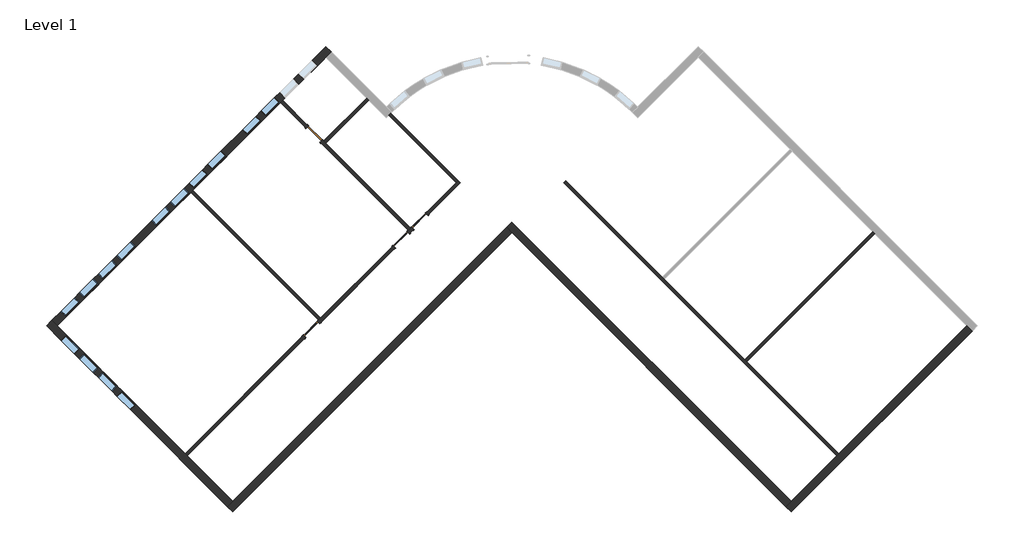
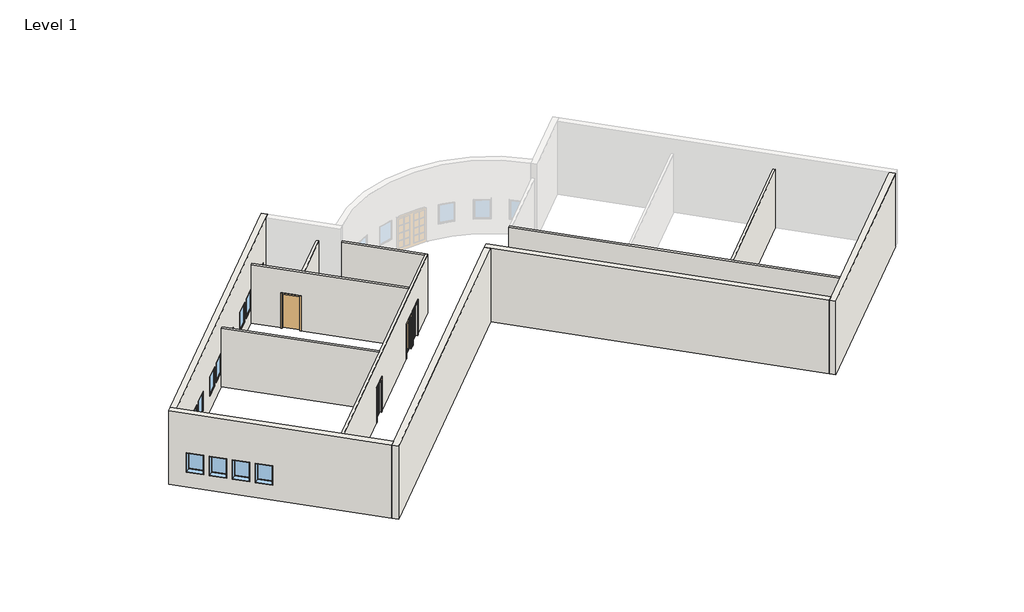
# One storey, part 1 of 2: 14 windows, 12 walls, 4 doors.
"""IFC4 building model written with IfcOpenShell, lengths in millimetres."""

from ifc_helpers import new_model, si_unit, point, frame_2d, origin, origin_with_axes, place, context, project, spatial, polyline, circle_curve, trimmed, segment, composite_curve, outline, extrude, faceted_brep, transform, mapped, element, save
from components import m_single_flush_0915_x_2134mm_83e8e835, m_single_glass_1_0915_x_2134mm_fb3287b7, m_single_glass_1_0915_x_2134mm_4e5e1233, m_fixed_0915_x_1220mm_bde29121, m_fixed_0915_x_1220mm_2a2509e7

model = new_model("IFC4")

# Units and contexts
model_context = context("Model", 3, world=origin())
ifc_project = project(units=[si_unit("LENGTHUNIT", "METRE", prefix="MILLI")], contexts=[model_context])

# Site, building, storey
site = spatial("IfcSite", under=ifc_project)
building = spatial("IfcBuilding", under=site)
storey = spatial("IfcBuildingStorey", under=building, Name="Level 1", Elevation=0.0)

# Doors
placement = place(None, origin())
m_single_flush_0915_x_2134mm_shape = m_single_flush_0915_x_2134mm_83e8e835(model_context)
element("IfcDoor", 1, ObjectType="M_Single-Flush : 0915 x 2134mm", at=placement, inside=storey, context=model_context, shape_type="MappedRepresentation", body=[
    mapped(m_single_flush_0915_x_2134mm_shape, transform((-10762.6979297, 6563.7995594, 0.0), x_axis=(0.7071067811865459, -0.7071067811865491, 0.0), y_axis=(0.7071067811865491, 0.7071067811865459, 0.0), z_axis=(0.0, 0.0, 1.0))),
])
m_single_glass_1_0915_x_2134mm_shape = m_single_glass_1_0915_x_2134mm_fb3287b7(model_context)
element("IfcDoor", 2, ObjectType="M_Single-Glass 1 : 0915 x 2134mm", at=placement, inside=storey, context=model_context, shape_type="MappedRepresentation", body=[
    mapped(m_single_glass_1_0915_x_2134mm_shape, transform((-10885.2041795, -2483.8084826, 0.0), x_axis=(0.7071067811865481, 0.7071067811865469, 0.0), y_axis=(-0.7071067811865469, 0.7071067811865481, 0.0), z_axis=(0.0, 0.0, 1.0))),
])
element("IfcDoor", 3, ObjectType="M_Single-Glass 1 : 0915 x 2134mm", at=placement, inside=storey, context=model_context, shape_type="MappedRepresentation", body=[
    mapped(m_single_glass_1_0915_x_2134mm_shape, transform((-6731.4821701, 1669.9135268, 0.0), x_axis=(0.7071067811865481, 0.7071067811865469, 0.0), y_axis=(-0.7071067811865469, 0.7071067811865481, 0.0), z_axis=(0.0, 0.0, 1.0))),
])
m_single_glass_1_0915_x_2134mm_2_shape = m_single_glass_1_0915_x_2134mm_4e5e1233(model_context)
element("IfcDoor", 4, ObjectType="M_Single-Glass 1 : 0915 x 2134mm", at=placement, inside=storey, context=model_context, shape_type="MappedRepresentation", body=[
    mapped(m_single_glass_1_0915_x_2134mm_2_shape, transform((-5868.8118971, 2532.5837999, 0.0), x_axis=(-0.7071067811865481, -0.7071067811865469, 0.0), y_axis=(0.7071067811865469, -0.7071067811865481, 0.0), z_axis=(0.0, 0.0, 1.0))),
])

# Walls
element("IfcWall", 5, ObjectType="Exterior - Brick on Mtl. Stud", at=placement, inside=storey, context=model_context, shape_type="Brep", body=[
    faceted_brep([(19456.3942478, -2315.870622, 0.0), (13534.5517321, -8237.7131378, 0.0), (13436.6174429, -8335.647427, 0.0), (11330.3231184, -10441.9417514, 0.0), (11082.835745, -10689.4291248, 0.0), (11082.835745, -10689.4291248, 4572.0), (11330.3231184, -10441.9417514, 4572.0), (19456.3942478, -2315.870622, 4572.0), (19703.8816212, -2563.3579955, 0.0), (19703.8816212, -2563.3579955, 4572.0), (11330.3231184, -10936.9164983, 4572.0), (11330.3231184, -10936.9164983, 0.0)], [[[0, 1, 2, 3, 4, 5, 6, 7]], [[8, 9, 10, 11]], [[4, 3, 2, 1, 0, 8, 11]], [[7, 6, 5, 10, 9]], [[0, 7, 9, 8]], [[5, 4, 11, 10]]]),
])
element("IfcWall", 6, ObjectType="Exterior - Brick on Mtl. Stud", at=placement, inside=storey, context=model_context, shape_type="Brep", body=[
    faceted_brep([(11330.3231184, -10441.9417514, 0.0), (-1601.2456959, 2489.6270629, 0.0), (-1601.2456959, 2489.6270629, 4572.0), (11330.3231184, -10441.9417514, 4572.0), (11082.835745, -10689.4291248, 0.0), (11082.835745, -10689.4291248, 4572.0), (-1601.2456959, 1994.6523161, 4572.0), (-1848.7330693, 2242.1396895, 4572.0), (-1848.7330693, 2242.1396895, 0.0), (-1601.2456959, 1994.6523161, 0.0)], [[[0, 1, 2, 3]], [[4, 5, 6, 7, 8, 9]], [[1, 0, 4, 9, 8]], [[3, 2, 7, 6, 5]], [[0, 3, 5, 4]], [[2, 1, 8, 7]]]),
])
element("IfcWall", 7, ObjectType="Exterior - Brick on Mtl. Stud", at=placement, inside=storey, context=model_context, shape_type="Brep", body=[
    faceted_brep([(-1848.7330693, 2242.1396895, 0.0), (-14532.8145102, -10441.9417514, 0.0), (-14780.3018837, -10689.4291248, 0.0), (-14780.3018837, -10689.4291248, 4572.0), (-14532.8145102, -10441.9417514, 4572.0), (-1848.7330693, 2242.1396895, 4572.0), (-1601.2456959, 1994.6523161, 0.0), (-1601.2456959, 1994.6523161, 4572.0), (-14532.8145102, -10936.9164983, 4572.0), (-14532.8145102, -10936.9164983, 0.0)], [[[0, 1, 2, 3, 4, 5]], [[6, 7, 8, 9]], [[2, 1, 0, 6, 9]], [[5, 4, 3, 8, 7]], [[0, 5, 7, 6]], [[3, 2, 9, 8]]]),
])
element("IfcWall", 8, ObjectType="Exterior - Brick on Mtl. Stud", at=placement, inside=storey, context=model_context, shape_type="Brep", body=[
    faceted_brep([(-14532.8145102, -10441.9417514, 0.0), (-16639.1088347, -8335.647427, 0.0), (-16737.0431239, -8237.7131378, 0.0), (-22658.8856396, -2315.870622, 0.0), (-22906.3730131, -2068.3832486, 0.0), (-22906.3730131, -2068.3832486, 4572.0), (-22658.8856396, -2315.870622, 4572.0), (-14532.8145102, -10441.9417514, 4572.0), (-19009.1539886, -5965.6022731, 915.0), (-19009.1539886, -5965.6022731, 2135.0), (-19656.1566933, -5318.5995683, 2135.0), (-19656.1566933, -5318.5995683, 915.0), (-19871.8242616, -5102.9320001, 915.0), (-19871.8242616, -5102.9320001, 2135.0), (-20518.8269664, -4455.9292953, 2135.0), (-20518.8269664, -4455.9292953, 915.0), (-20734.4945346, -4240.261727, 915.0), (-20734.4945346, -4240.261727, 2135.0), (-21381.4972394, -3593.2590223, 2135.0), (-21381.4972394, -3593.2590223, 915.0), (-21597.1648077, -3377.591454, 915.0), (-21597.1648077, -3377.591454, 2135.0), (-22244.1675125, -2730.5887492, 2135.0), (-22244.1675125, -2730.5887492, 915.0), (-14780.3018837, -10689.4291248, 0.0), (-14780.3018837, -10689.4291248, 4572.0), (-23153.8603865, -2315.870622, 4572.0), (-23153.8603865, -2315.870622, 0.0), (-19256.641362, -6213.0896465, 915.0), (-19903.6440668, -5566.0869418, 915.0), (-19903.6440668, -5566.0869418, 2135.0), (-19256.641362, -6213.0896465, 2135.0), (-20119.311635, -5350.4193735, 915.0), (-20766.3143398, -4703.4166687, 915.0), (-20766.3143398, -4703.4166687, 2135.0), (-20119.311635, -5350.4193735, 2135.0), (-20981.9819081, -4487.7491005, 915.0), (-21628.9846128, -3840.7463957, 915.0), (-21628.9846128, -3840.7463957, 2135.0), (-20981.9819081, -4487.7491005, 2135.0), (-21844.6521811, -3625.0788274, 915.0), (-22491.6548859, -2978.0761226, 915.0), (-22491.6548859, -2978.0761226, 2135.0), (-21844.6521811, -3625.0788274, 2135.0)], [[[0, 1, 2, 3, 4, 5, 6, 7], [8, 9, 10, 11], [12, 13, 14, 15], [16, 17, 18, 19], [20, 21, 22, 23]], [[24, 25, 26, 27], [28, 29, 30, 31], [32, 33, 34, 35], [36, 37, 38, 39], [40, 41, 42, 43]], [[4, 3, 2, 1, 0, 24, 27]], [[7, 6, 5, 26, 25]], [[0, 7, 25, 24]], [[5, 4, 27, 26]], [[9, 8, 28, 31]], [[10, 9, 31, 30]], [[11, 10, 30, 29]], [[8, 11, 29, 28]], [[13, 12, 32, 35]], [[14, 13, 35, 34]], [[15, 14, 34, 33]], [[12, 15, 33, 32]], [[17, 16, 36, 39]], [[18, 17, 39, 38]], [[19, 18, 38, 37]], [[16, 19, 37, 36]], [[21, 20, 40, 43]], [[22, 21, 43, 42]], [[23, 22, 42, 41]], [[20, 23, 41, 40]]]),
])
element("IfcWall", 9, ObjectType="Exterior - Brick on Mtl. Stud", at=placement, inside=storey, context=model_context, shape_type="Brep", body=[
    faceted_brep([(-22658.8856396, -2315.870622, 0.0), (-16473.6458479, 3869.3691697, 0.0), (-16375.7115587, 3967.3034589, 0.0), (-12319.9238385, 8023.0911791, 0.0), (-12221.9895493, 8121.0254683, 0.0), (-10222.2915721, 10120.7234455, 0.0), (-9974.8041987, 10368.2108189, 0.0), (-9974.8041987, 10368.2108189, 4572.0), (-10222.2915721, 10120.7234455, 4572.0), (-22658.8856396, -2315.870622, 4572.0), (-21597.1648077, -1254.1497901, 915.0), (-22244.1675125, -1901.1524949, 915.0), (-22244.1675125, -1901.1524949, 2135.0), (-21597.1648077, -1254.1497901, 2135.0), (-20734.4945346, -391.479517, 915.0), (-21381.4972394, -1038.4822218, 915.0), (-21381.4972394, -1038.4822218, 2135.0), (-20734.4945346, -391.479517, 2135.0), (-19009.1539886, 1333.8610291, 915.0), (-19656.1566933, 686.8583243, 915.0), (-19656.1566933, 686.8583243, 2135.0), (-19009.1539886, 1333.8610291, 2135.0), (-19871.8242616, 471.190756, 915.0), (-20518.8269664, -175.8119488, 915.0), (-20518.8269664, -175.8119488, 2135.0), (-19871.8242616, 471.190756, 2135.0), (-13840.2034181, 6502.8115995, 915.0), (-13840.2034181, 6502.8115995, 2135.0), (-13193.2007133, 7149.8143043, 2135.0), (-13193.2007133, 7149.8143043, 915.0), (-12977.533145, 7365.4818726, 915.0), (-12977.533145, 7365.4818726, 2135.0), (-12330.5304402, 8012.4845774, 2135.0), (-12330.5304402, 8012.4845774, 915.0), (-12114.862872, 8228.1521456, 915.0), (-12114.862872, 8228.1521456, 2135.0), (-11467.8601672, 8875.1548504, 2135.0), (-11467.8601672, 8875.1548504, 915.0), (-11252.1925989, 9090.8224187, 915.0), (-11252.1925989, 9090.8224187, 2135.0), (-10605.1898941, 9737.8251235, 2135.0), (-10605.1898941, 9737.8251235, 915.0), (-14807.1719413, 5535.8430763, 915.0), (-15454.1746461, 4888.8403715, 915.0), (-15454.1746461, 4888.8403715, 2135.0), (-14807.1719413, 5535.8430763, 2135.0), (-15669.8422144, 4673.1728032, 915.0), (-16316.8449192, 4026.1700984, 915.0), (-16316.8449192, 4026.1700984, 2135.0), (-15669.8422144, 4673.1728032, 2135.0), (-16532.5124874, 3810.5025302, 915.0), (-17179.5151922, 3163.4998254, 915.0), (-17179.5151922, 3163.4998254, 2135.0), (-16532.5124874, 3810.5025302, 2135.0), (-17395.1827605, 2947.8322571, 915.0), (-18042.1854653, 2300.8295523, 915.0), (-18042.1854653, 2300.8295523, 2135.0), (-17395.1827605, 2947.8322571, 2135.0), (-22906.3730131, -2068.3832486, 0.0), (-22906.3730131, -2068.3832486, 4572.0), (-10222.2915721, 10615.6981923, 4572.0), (-10222.2915721, 10615.6981923, 0.0), (-21844.6521811, -1006.6624167, 915.0), (-21844.6521811, -1006.6624167, 2135.0), (-22491.6548859, -1653.6651215, 2135.0), (-22491.6548859, -1653.6651215, 915.0), (-20981.9819081, -143.9921436, 915.0), (-20981.9819081, -143.9921436, 2135.0), (-21628.9846128, -790.9948484, 2135.0), (-21628.9846128, -790.9948484, 915.0), (-19256.641362, 1581.3484025, 915.0), (-19256.641362, 1581.3484025, 2135.0), (-19903.6440668, 934.3456977, 2135.0), (-19903.6440668, 934.3456977, 915.0), (-20119.311635, 718.6781294, 915.0), (-20119.311635, 718.6781294, 2135.0), (-20766.3143398, 71.6754246, 2135.0), (-20766.3143398, 71.6754246, 915.0), (-14087.6907915, 6750.2989729, 915.0), (-13440.6880867, 7397.3016777, 915.0), (-13440.6880867, 7397.3016777, 2135.0), (-14087.6907915, 6750.2989729, 2135.0), (-13225.0205184, 7612.969246, 915.0), (-12578.0178137, 8259.9719508, 915.0), (-12578.0178137, 8259.9719508, 2135.0), (-13225.0205184, 7612.969246, 2135.0), (-12362.3502454, 8475.639519, 915.0), (-11715.3475406, 9122.6422238, 915.0), (-11715.3475406, 9122.6422238, 2135.0), (-12362.3502454, 8475.639519, 2135.0), (-11499.6799723, 9338.3097921, 915.0), (-10852.6772676, 9985.3124969, 915.0), (-10852.6772676, 9985.3124969, 2135.0), (-11499.6799723, 9338.3097921, 2135.0), (-15054.6593148, 5783.3304497, 915.0), (-15054.6593148, 5783.3304497, 2135.0), (-15701.6620196, 5136.3277449, 2135.0), (-15701.6620196, 5136.3277449, 915.0), (-15917.3295878, 4920.6601766, 915.0), (-15917.3295878, 4920.6601766, 2135.0), (-16564.3322926, 4273.6574718, 2135.0), (-16564.3322926, 4273.6574718, 915.0), (-16779.9998609, 4057.9899036, 915.0), (-16779.9998609, 4057.9899036, 2135.0), (-17427.0025656, 3410.9871988, 2135.0), (-17427.0025656, 3410.9871988, 915.0), (-17642.6701339, 3195.3196305, 915.0), (-17642.6701339, 3195.3196305, 2135.0), (-18289.6728387, 2548.3169257, 2135.0), (-18289.6728387, 2548.3169257, 915.0)], [[[0, 1, 2, 3, 4, 5, 6, 7, 8, 9], [10, 11, 12, 13], [14, 15, 16, 17], [18, 19, 20, 21], [22, 23, 24, 25], [26, 27, 28, 29], [30, 31, 32, 33], [34, 35, 36, 37], [38, 39, 40, 41], [42, 43, 44, 45], [46, 47, 48, 49], [50, 51, 52, 53], [54, 55, 56, 57]], [[58, 59, 60, 61], [62, 63, 64, 65], [66, 67, 68, 69], [70, 71, 72, 73], [74, 75, 76, 77], [78, 79, 80, 81], [82, 83, 84, 85], [86, 87, 88, 89], [90, 91, 92, 93], [94, 95, 96, 97], [98, 99, 100, 101], [102, 103, 104, 105], [106, 107, 108, 109]], [[6, 5, 4, 3, 2, 1, 0, 58, 61]], [[9, 8, 7, 60, 59]], [[0, 9, 59, 58]], [[7, 6, 61, 60]], [[63, 62, 10, 13]], [[64, 63, 13, 12]], [[65, 64, 12, 11]], [[62, 65, 11, 10]], [[67, 66, 14, 17]], [[68, 67, 17, 16]], [[69, 68, 16, 15]], [[66, 69, 15, 14]], [[71, 70, 18, 21]], [[72, 71, 21, 20]], [[73, 72, 20, 19]], [[70, 73, 19, 18]], [[75, 74, 22, 25]], [[76, 75, 25, 24]], [[77, 76, 24, 23]], [[74, 77, 23, 22]], [[27, 26, 78, 81]], [[28, 27, 81, 80]], [[29, 28, 80, 79]], [[26, 29, 79, 78]], [[31, 30, 82, 85]], [[32, 31, 85, 84]], [[33, 32, 84, 83]], [[30, 33, 83, 82]], [[35, 34, 86, 89]], [[36, 35, 89, 88]], [[37, 36, 88, 87]], [[34, 37, 87, 86]], [[39, 38, 90, 93]], [[40, 39, 93, 92]], [[41, 40, 92, 91]], [[38, 41, 91, 90]], [[95, 94, 42, 45]], [[96, 95, 45, 44]], [[97, 96, 44, 43]], [[94, 97, 43, 42]], [[99, 98, 46, 49]], [[100, 99, 49, 48]], [[101, 100, 48, 47]], [[98, 101, 47, 46]], [[103, 102, 50, 53]], [[104, 103, 53, 52]], [[105, 104, 52, 51]], [[102, 105, 51, 50]], [[107, 106, 54, 57]], [[108, 107, 57, 56]], [[109, 108, 56, 55]], [[106, 109, 55, 54]]]),
])
element("IfcWall", 10, ObjectType="Interior - 138mm Partition (1-hr)", at=placement, inside=storey, context=model_context, shape_type="Brep", body=[
    faceted_brep([(-6359.0136731, 1944.4477346, 0.0), (-6143.3461049, 2160.1153029, 0.0), (-6143.3461049, 2160.1153029, 2134.0), (-5496.3434001, 2807.1180077, 2134.0), (-5496.3434001, 2807.1180077, 0.0), (-3997.9841307, 4305.477277, 0.0), (-3997.9841307, 4305.477277, 3658.0), (-16639.1088347, -8335.647427, 3658.0), (-16639.1088347, -8335.647427, 0.0), (-11159.7383873, -2856.2769796, 0.0), (-11159.7383873, -2856.2769796, 2134.0), (-10512.7356825, -2209.2742748, 2134.0), (-10512.7356825, -2209.2742748, 0.0), (-7006.0163779, 1297.4450298, 0.0), (-7006.0163779, 1297.4450298, 2134.0), (-6359.0136731, 1944.4477346, 2134.0), (-6241.2803941, 2258.0495921, 2134.0), (-6241.2803941, 2258.0495921, 0.0), (-6300.1470336, 2199.1829525, 0.0), (-6398.0813228, 2101.2486633, 0.0), (-6456.9479623, 2042.3820238, 0.0), (-6456.9479623, 2042.3820238, 2134.0), (-7103.9506671, 1395.379319, 2134.0), (-7103.9506671, 1395.379319, 0.0), (-10453.869043, -1954.5390569, 0.0), (-10551.8033322, -2052.473346, 0.0), (-10610.6699717, -2111.3399856, 0.0), (-10610.6699717, -2111.3399856, 2134.0), (-11257.6726765, -2758.3426904, 2134.0), (-11257.6726765, -2758.3426904, 0.0), (-16737.0431239, -8237.7131378, 0.0), (-16737.0431239, -8237.7131378, 3658.0), (-10551.8033322, -2052.473346, 3658.0), (-10453.869043, -1954.5390569, 3658.0), (-6398.0813228, 2101.2486633, 3658.0), (-6300.1470336, 2199.1829525, 3658.0), (-4193.8527091, 4305.477277, 3658.0), (-4095.9184199, 4403.4115662, 3658.0), (-4095.9184199, 4403.4115662, 0.0), (-4193.8527091, 4305.477277, 0.0), (-5594.2776893, 2905.0522969, 0.0), (-5594.2776893, 2905.0522969, 2134.0)], [[[0, 1, 2, 3, 4, 5, 6, 7, 8, 9, 10, 11, 12, 13, 14, 15]], [[16, 17, 18, 19, 20, 21, 22, 23, 24, 25, 26, 27, 28, 29, 30, 31, 32, 33, 34, 35, 36, 37, 38, 39, 40, 41]], [[9, 8, 30, 29]], [[13, 12, 26, 25, 24, 23]], [[40, 39, 38, 5, 4]], [[20, 19, 18, 17, 1, 0]], [[7, 6, 37, 36, 35, 34, 33, 32, 31]], [[8, 7, 31, 30]], [[6, 5, 38, 37]], [[27, 26, 12, 11]], [[28, 27, 11, 10]], [[29, 28, 10, 9]], [[21, 20, 0, 15]], [[22, 21, 15, 14]], [[23, 22, 14, 13]], [[2, 1, 17, 16]], [[3, 2, 16, 41]], [[4, 3, 41, 40]]]),
])
element("IfcWall", 11, ObjectType="Interior - 138mm Partition (1-hr)", at=placement, inside=storey, context=model_context, shape_type="SweptSolid", body=[
    extrude(outline(composite_curve([segment(polyline([(-7216.038281, 7523.5314273), (-4095.9184199, 4403.4115662), (-4193.8527091, 4305.477277), (-7312.3566207, 7423.9811885)]), True, "CONTINUOUS"), segment(trimmed(circle_curve(frame_2d((-1601.2456959, 1994.6523161)), 7880.0), [point((-7312.3566207, 7423.9811885))], [point((-7216.038281, 7523.5314273))], False, "CARTESIAN"), True, "CONTINUOUS")], self_intersect=False)), origin_with_axes(), (0.0, 0.0, 1.0), 3658.0),
])
element("IfcWall", 12, ObjectType="Interior - 138mm Partition (1-hr)", at=placement, inside=storey, context=model_context, shape_type="Brep", body=[
    faceted_brep([(-6300.1470336, 2199.1829525, 0.0), (-10233.4285039, 6132.4644229, 0.0), (-10331.3627931, 6230.3987121, 0.0), (-10390.2294327, 6289.2653516, 0.0), (-10390.2294327, 6289.2653516, 2134.0), (-11037.2321375, 6936.2680564, 2134.0), (-11037.2321375, 6936.2680564, 0.0), (-12221.9895493, 8121.0254683, 0.0), (-12221.9895493, 8121.0254683, 3658.0), (-10331.3627931, 6230.3987121, 3658.0), (-10233.4285039, 6132.4644229, 3658.0), (-6300.1470336, 2199.1829525, 3658.0), (-10488.1637219, 6191.3310624, 2134.0), (-10488.1637219, 6191.3310624, 0.0), (-6398.0813228, 2101.2486633, 0.0), (-6398.0813228, 2101.2486633, 3658.0), (-12319.9238385, 8023.0911791, 3658.0), (-12319.9238385, 8023.0911791, 0.0), (-11135.1664266, 6838.3337672, 0.0), (-11135.1664266, 6838.3337672, 2134.0)], [[[0, 1, 2, 3, 4, 5, 6, 7, 8, 9, 10, 11]], [[12, 13, 14, 15, 16, 17, 18, 19]], [[18, 17, 7, 6]], [[14, 13, 3, 2, 1, 0]], [[11, 10, 9, 8, 16, 15]], [[8, 7, 17, 16]], [[0, 11, 15, 14]], [[4, 3, 13, 12]], [[5, 4, 12, 19]], [[6, 5, 19, 18]]]),
])
element("IfcWall", 13, ObjectType="Interior - 138mm Partition (1-hr)", at=placement, inside=storey, context=model_context, shape_type="SweptSolid", body=[
    extrude(outline(polyline([(-8233.7305267, 8132.1624001), (-10233.4285039, 6132.4644229), (-10331.3627931, 6230.3987121), (-8331.6648159, 8230.0966893), (-8233.7305267, 8132.1624001)])), origin_with_axes(), (0.0, 0.0, 1.0), 3658.0),
])
element("IfcWall", 14, ObjectType="Interior - 138mm Partition (1-hr)", at=placement, inside=storey, context=model_context, shape_type="SweptSolid", body=[
    extrude(outline(polyline([(-16375.7115587, 3967.3034589), (-10453.869043, -1954.5390569), (-10551.8033322, -2052.473346), (-16473.6458479, 3869.3691697), (-16375.7115587, 3967.3034589)])), origin_with_axes(), (0.0, 0.0, 1.0), 3658.0),
])
element("IfcWall", 15, ObjectType="Interior - 138mm Partition (1-hr)", at=placement, inside=storey, context=model_context, shape_type="Brep", body=[
    faceted_brep([(13534.5517321, -8237.7131378, 0.0), (9272.9959386, -3976.1573443, 0.0), (9175.0616494, -3878.2230551, 0.0), (5457.4477473, -160.609153, 0.0), (5359.5134581, -62.6748638, 0.0), (991.3613173, 4305.477277, 0.0), (893.4270281, 4403.4115662, 0.0), (893.4270281, 4403.4115662, 3658.0), (991.3613173, 4305.477277, 3658.0), (5359.5134581, -62.6748638, 3658.0), (5457.4477473, -160.609153, 3658.0), (9175.0616494, -3878.2230551, 3658.0), (9272.9959386, -3976.1573443, 3658.0), (13534.5517321, -8237.7131378, 3658.0), (13436.6174429, -8335.647427, 0.0), (13436.6174429, -8335.647427, 3658.0), (795.4927389, 4305.477277, 3658.0), (795.4927389, 4305.477277, 0.0)], [[[0, 1, 2, 3, 4, 5, 6, 7, 8, 9, 10, 11, 12, 13]], [[14, 15, 16, 17]], [[6, 5, 4, 3, 2, 1, 0, 14, 17]], [[13, 12, 11, 10, 9, 8, 7, 16, 15]], [[0, 13, 15, 14]], [[7, 6, 17, 16]]]),
])
element("IfcWall", 16, ObjectType="Interior - 138mm Partition (1-hr)", at=placement, inside=storey, context=model_context, shape_type="SweptSolid", body=[
    extrude(outline(polyline([(15194.8384543, 1945.6851715), (9272.9959386, -3976.1573443), (9175.0616494, -3878.2230551), (15096.9041651, 2043.6194607), (15194.8384543, 1945.6851715)])), origin_with_axes(), (0.0, 0.0, 1.0), 3658.0),
])

# Windows
m_fixed_0915_x_1220mm_shape = m_fixed_0915_x_1220mm_bde29121(model_context)
element("IfcWindow", 17, ObjectType="M_Fixed : 0915 x 1220mm", at=placement, inside=storey, context=model_context, shape_type="MappedRepresentation", body=[
    mapped(m_fixed_0915_x_1220mm_shape, transform((-22053.6022349, -1444.7150676, 0.0), x_axis=(-0.7071067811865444, -0.7071067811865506, 0.0), y_axis=(0.7071067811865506, -0.7071067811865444, 0.0), z_axis=(0.0, 0.0, 1.0))),
])
element("IfcWindow", 18, ObjectType="M_Fixed : 0915 x 1220mm", at=placement, inside=storey, context=model_context, shape_type="MappedRepresentation", body=[
    mapped(m_fixed_0915_x_1220mm_shape, transform((-21190.9319619, -582.0447946, 0.0), x_axis=(-0.7071067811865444, -0.7071067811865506, 0.0), y_axis=(0.7071067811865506, -0.7071067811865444, 0.0), z_axis=(0.0, 0.0, 1.0))),
])
element("IfcWindow", 19, ObjectType="M_Fixed : 0915 x 1220mm", at=placement, inside=storey, context=model_context, shape_type="MappedRepresentation", body=[
    mapped(m_fixed_0915_x_1220mm_shape, transform((-20328.2616889, 280.6254785, 0.0), x_axis=(-0.7071067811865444, -0.7071067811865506, 0.0), y_axis=(0.7071067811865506, -0.7071067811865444, 0.0), z_axis=(0.0, 0.0, 1.0))),
])
element("IfcWindow", 20, ObjectType="M_Fixed : 0915 x 1220mm", at=placement, inside=storey, context=model_context, shape_type="MappedRepresentation", body=[
    mapped(m_fixed_0915_x_1220mm_shape, transform((-19465.5914158, 1143.2957515, 0.0), x_axis=(-0.7071067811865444, -0.7071067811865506, 0.0), y_axis=(0.7071067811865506, -0.7071067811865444, 0.0), z_axis=(0.0, 0.0, 1.0))),
])
element("IfcWindow", 21, ObjectType="M_Fixed : 0915 x 1220mm", at=placement, inside=storey, context=model_context, shape_type="MappedRepresentation", body=[
    mapped(m_fixed_0915_x_1220mm_shape, transform((-17851.6201877, 2757.2669796, 0.0), x_axis=(-0.7071067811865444, -0.7071067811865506, 0.0), y_axis=(0.7071067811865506, -0.7071067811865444, 0.0), z_axis=(0.0, 0.0, 1.0))),
])
element("IfcWindow", 22, ObjectType="M_Fixed : 0915 x 1220mm", at=placement, inside=storey, context=model_context, shape_type="MappedRepresentation", body=[
    mapped(m_fixed_0915_x_1220mm_shape, transform((-16988.9499147, 3619.9372526, 0.0), x_axis=(-0.7071067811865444, -0.7071067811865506, 0.0), y_axis=(0.7071067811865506, -0.7071067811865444, 0.0), z_axis=(0.0, 0.0, 1.0))),
])
element("IfcWindow", 23, ObjectType="M_Fixed : 0915 x 1220mm", at=placement, inside=storey, context=model_context, shape_type="MappedRepresentation", body=[
    mapped(m_fixed_0915_x_1220mm_shape, transform((-16126.2796417, 4482.6075257, 0.0), x_axis=(-0.7071067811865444, -0.7071067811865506, 0.0), y_axis=(0.7071067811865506, -0.7071067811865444, 0.0), z_axis=(0.0, 0.0, 1.0))),
])
element("IfcWindow", 24, ObjectType="M_Fixed : 0915 x 1220mm", at=placement, inside=storey, context=model_context, shape_type="MappedRepresentation", body=[
    mapped(m_fixed_0915_x_1220mm_shape, transform((-15263.6093686, 5345.2777987, 0.0), x_axis=(-0.7071067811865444, -0.7071067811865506, 0.0), y_axis=(0.7071067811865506, -0.7071067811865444, 0.0), z_axis=(0.0, 0.0, 1.0))),
])
m_fixed_0915_x_1220mm_2_shape = m_fixed_0915_x_1220mm_2a2509e7(model_context)
element("IfcWindow", 25, ObjectType="M_Fixed : 0915 x 1220mm", at=placement, inside=storey, context=model_context, shape_type="MappedRepresentation", body=[
    mapped(m_fixed_0915_x_1220mm_2_shape, transform((-12786.9678675, 7821.9192998, 0.0), x_axis=(0.7071067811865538, 0.7071067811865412, 0.0), y_axis=(-0.7071067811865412, 0.7071067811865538, 0.0), z_axis=(0.0, 0.0, 1.0))),
])
element("IfcWindow", 26, ObjectType="M_Fixed : 0915 x 1220mm", at=placement, inside=storey, context=model_context, shape_type="MappedRepresentation", body=[
    mapped(m_fixed_0915_x_1220mm_2_shape, transform((-13649.6381405, 6959.2490268, 0.0), x_axis=(0.7071067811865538, 0.7071067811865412, 0.0), y_axis=(-0.7071067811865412, 0.7071067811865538, 0.0), z_axis=(0.0, 0.0, 1.0))),
])
element("IfcWindow", 27, ObjectType="M_Fixed : 0915 x 1220mm", at=placement, inside=storey, context=model_context, shape_type="MappedRepresentation", body=[
    mapped(m_fixed_0915_x_1220mm_2_shape, transform((-22053.6022349, -3187.0261765, 0.0), x_axis=(-0.7071067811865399, 0.7071067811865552, 0.0), y_axis=(-0.7071067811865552, -0.7071067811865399, 0.0), z_axis=(0.0, 0.0, 1.0))),
])
element("IfcWindow", 28, ObjectType="M_Fixed : 0915 x 1220mm", at=placement, inside=storey, context=model_context, shape_type="MappedRepresentation", body=[
    mapped(m_fixed_0915_x_1220mm_2_shape, transform((-21190.9319619, -4049.6964495, 0.0), x_axis=(-0.7071067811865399, 0.7071067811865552, 0.0), y_axis=(-0.7071067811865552, -0.7071067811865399, 0.0), z_axis=(0.0, 0.0, 1.0))),
])
element("IfcWindow", 29, ObjectType="M_Fixed : 0915 x 1220mm", at=placement, inside=storey, context=model_context, shape_type="MappedRepresentation", body=[
    mapped(m_fixed_0915_x_1220mm_2_shape, transform((-20328.2616889, -4912.3667226, 0.0), x_axis=(-0.7071067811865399, 0.7071067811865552, 0.0), y_axis=(-0.7071067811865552, -0.7071067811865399, 0.0), z_axis=(0.0, 0.0, 1.0))),
])
element("IfcWindow", 30, ObjectType="M_Fixed : 0915 x 1220mm", at=placement, inside=storey, context=model_context, shape_type="MappedRepresentation", body=[
    mapped(m_fixed_0915_x_1220mm_2_shape, transform((-19465.5914158, -5775.0369956, 0.0), x_axis=(-0.7071067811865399, 0.7071067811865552, 0.0), y_axis=(-0.7071067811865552, -0.7071067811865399, 0.0), z_axis=(0.0, 0.0, 1.0))),
])

save(model, "model.ifc")
